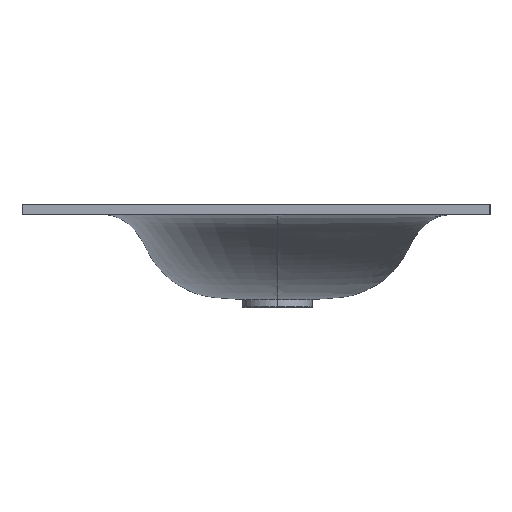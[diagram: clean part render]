
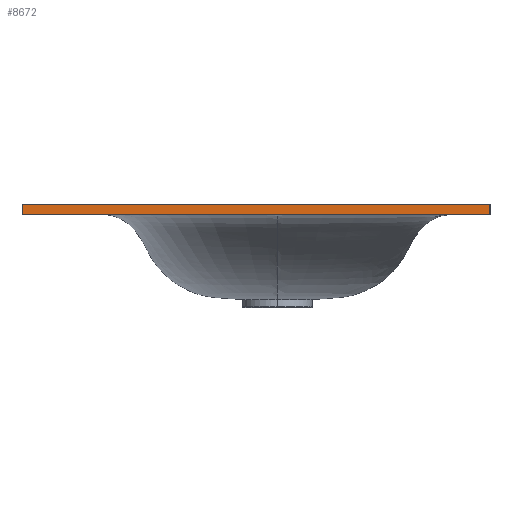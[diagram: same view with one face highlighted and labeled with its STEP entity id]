
A CAD part, left-side view. The second image highlights one B-rep face of the part: STEP entity #8672.
In plain terms, the highlighted planar face has unit normal (-1, 0, 0).
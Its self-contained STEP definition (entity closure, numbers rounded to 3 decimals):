
#315 = DIRECTION ( 'NONE',  ( -1., 0., 0. ) ) ;
#567 = VERTEX_POINT ( 'NONE', #7879 ) ;
#1370 = VERTEX_POINT ( 'NONE', #18148 ) ;
#1590 = CARTESIAN_POINT ( 'NONE',  ( 160555.974, 1125.128, -12. ) ) ;
#1669 = ORIENTED_EDGE ( 'NONE', *, *, #6607, .F. ) ;
#2560 = CARTESIAN_POINT ( 'NONE',  ( 160555.974, 1675.128, -12. ) ) ;
#3355 = VERTEX_POINT ( 'NONE', #14116 ) ;
#3463 = DIRECTION ( 'NONE',  ( 0., -1., 0. ) ) ;
#3501 = FACE_OUTER_BOUND ( 'NONE', #12023, .T. ) ;
#3935 = VECTOR ( 'NONE', #13954, 1000. ) ;
#4947 = DIRECTION ( 'NONE',  ( 0., 0., 1. ) ) ;
#5200 = PLANE ( 'NONE',  #12542 ) ;
#5692 = CARTESIAN_POINT ( 'NONE',  ( 160555.974, 1125.128, -12. ) ) ;
#6607 = EDGE_CURVE ( 'NONE', #3355, #1370, #16251, .T. ) ;
#7770 = CARTESIAN_POINT ( 'NONE',  ( 160555.974, 1125.128, 0. ) ) ;
#7879 = CARTESIAN_POINT ( 'NONE',  ( 160555.974, 1125.128, 0. ) ) ;
#8641 = DIRECTION ( 'NONE',  ( 0., 0., 1. ) ) ;
#8672 = ADVANCED_FACE ( 'NONE', ( #3501 ), #5200, .T. ) ;
#12023 = EDGE_LOOP ( 'NONE', ( #17977, #1669, #19049, #12738 ) ) ;
#12271 = LINE ( 'NONE', #1590, #3935 ) ;
#12308 = EDGE_CURVE ( 'NONE', #1370, #567, #19699, .T. ) ;
#12523 = VECTOR ( 'NONE', #8641, 1000. ) ;
#12542 = AXIS2_PLACEMENT_3D ( 'NONE', #13899, #315, #17394 ) ;
#12738 = ORIENTED_EDGE ( 'NONE', *, *, #13653, .T. ) ;
#12816 = EDGE_CURVE ( 'NONE', #3355, #18848, #12271, .T. ) ;
#13653 = EDGE_CURVE ( 'NONE', #18848, #567, #18644, .T. ) ;
#13899 = CARTESIAN_POINT ( 'NONE',  ( 160555.974, 1125.128, -12. ) ) ;
#13954 = DIRECTION ( 'NONE',  ( 0., -1., 0. ) ) ;
#14038 = CARTESIAN_POINT ( 'NONE',  ( 160555.974, 1125.128, -12. ) ) ;
#14116 = CARTESIAN_POINT ( 'NONE',  ( 160555.974, 1675.128, -12. ) ) ;
#14773 = VECTOR ( 'NONE', #3463, 1000. ) ;
#15092 = VECTOR ( 'NONE', #4947, 1000. ) ;
#16251 = LINE ( 'NONE', #2560, #12523 ) ;
#17394 = DIRECTION ( 'NONE',  ( 0., 0., 1. ) ) ;
#17977 = ORIENTED_EDGE ( 'NONE', *, *, #12308, .F. ) ;
#18148 = CARTESIAN_POINT ( 'NONE',  ( 160555.974, 1675.128, 0. ) ) ;
#18644 = LINE ( 'NONE', #14038, #15092 ) ;
#18848 = VERTEX_POINT ( 'NONE', #5692 ) ;
#19049 = ORIENTED_EDGE ( 'NONE', *, *, #12816, .T. ) ;
#19699 = LINE ( 'NONE', #7770, #14773 ) ;
